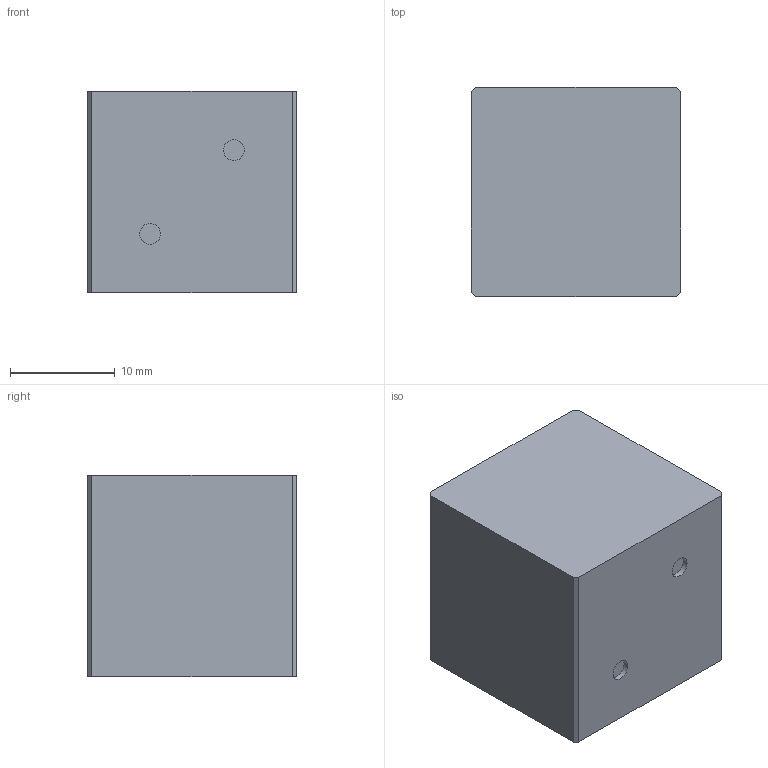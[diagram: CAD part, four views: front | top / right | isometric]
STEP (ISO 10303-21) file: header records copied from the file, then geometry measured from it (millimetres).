
FILE_DESCRIPTION(('Open CASCADE Model'),'2;1');
FILE_NAME('Open CASCADE Shape Model','2026-08-23T08:04:37',('Author'),( 'Open CASCADE'),'Open CASCADE STEP processor 7.9','Open CASCADE 7.9' ,'Unknown');
FILE_SCHEMA(('AUTOMOTIVE_DESIGN { 1 0 10303 214 1 1 1 1 }'));
Length unit declared in the file: millimetre
Products named in the file (2): =>[0:1:1:2]; COMPOUND
Assembly tree (1 placements, depth 2):
  =>[0:1:1:2]
    COMPOUND
Bounding box: 20 x 20 x 19.25 mm (x, y, z)
Volume: 7690.7 mm3; surface area: 2327.6 mm2
Topology: 1 solids, 1 shells, 14 faces, 30 edges, 20 vertices
Faces by surface type: plane 12, cylinder 2
Full cylindrical faces by diameter (mm): 2 x2
Entity records: 818 total; most frequent: CARTESIAN_POINT 138, DIRECTION 124, LINE 82, VECTOR 82, ORIENTED_EDGE 60, PCURVE 60, DEFINITIONAL_REPRESENTATION 60, EDGE_CURVE 30
